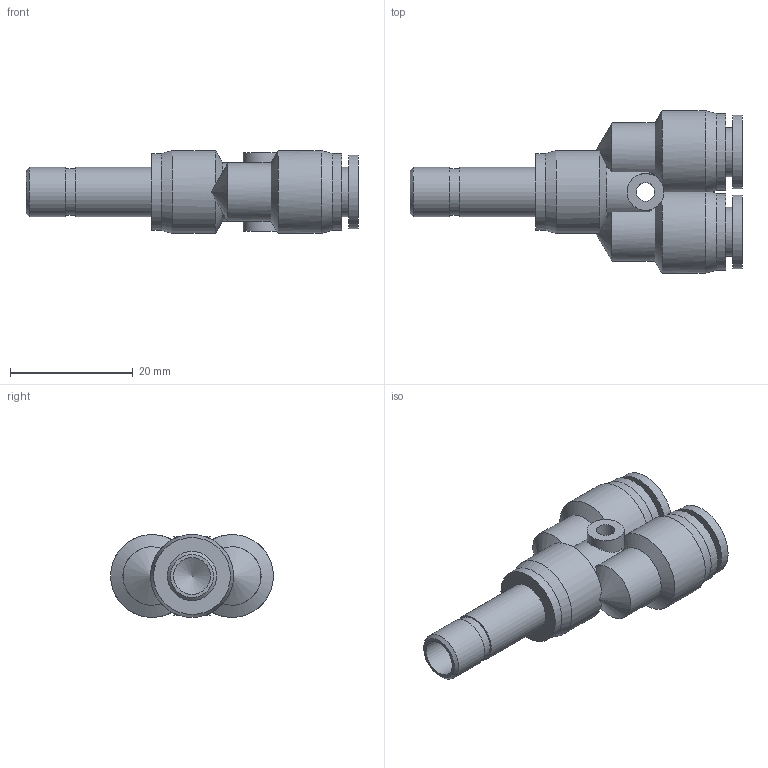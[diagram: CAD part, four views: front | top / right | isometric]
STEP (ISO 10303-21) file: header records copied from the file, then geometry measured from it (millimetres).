
FILE_DESCRIPTION((''),'2;1');
FILE_NAME('S:\UTecnico\ArchivioUT\Speciali Clienti\Speciali KONFIT\Plastica\RP\RP 91\RP910806.stp','2012-05-15T08:43:30',('UT5'),(''),'Autodesk Inventor 2012','Autodesk Inventor 2012','');
FILE_SCHEMA(('AUTOMOTIVE_DESIGN { 1 0 10303 214 1 1 1 1 }'));
Length unit declared in the file: millimetre
Products named in the file (1): RP910806
Bounding box: 54.05 x 26.5 x 13.5 mm (x, y, z)
Volume: 5474 mm3; surface area: 4906 mm2
Topology: 1 solids, 1 shells, 52 faces, 120 edges, 77 vertices
Faces by surface type: cylinder 23, cone 17, plane 12
Full cylindrical faces by diameter (mm): 3 x1, 6 x5, 7.5 x1, 8 x4, 12 x2, 12.5 x3, 13.5 x1
Entity records: 1539 total; most frequent: CARTESIAN_POINT 456, DIRECTION 208, ORIENTED_EDGE 174, AXIS2_PLACEMENT_3D 101, EDGE_CURVE 87, EDGE_LOOP 85, VERTEX_POINT 68, FACE_OUTER_BOUND 52
